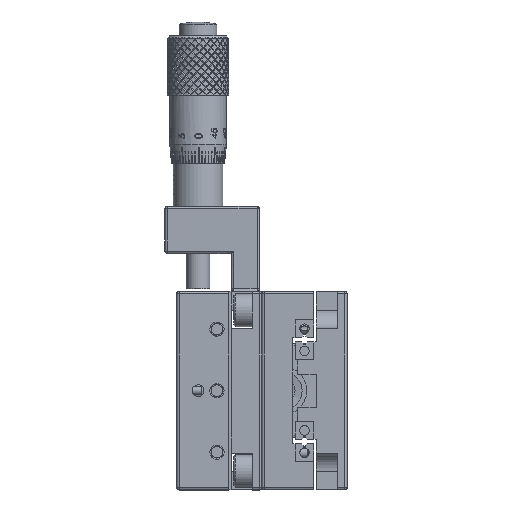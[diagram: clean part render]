
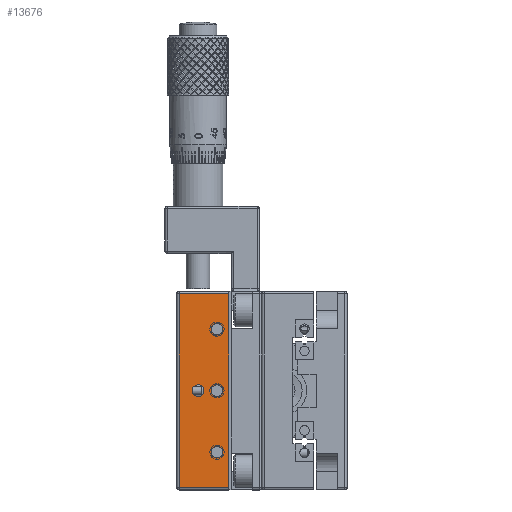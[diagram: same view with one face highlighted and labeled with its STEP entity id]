
A CAD part, left-side view. The second image highlights one B-rep face of the part: STEP entity #13676.
In plain terms, the highlighted planar face has unit normal (-1, 0, 0).
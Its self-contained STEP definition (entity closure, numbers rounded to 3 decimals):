
#4553 = EDGE_CURVE ( 'NONE', #295157, #295169, #49851, .T. ) ;
#4559 = EDGE_CURVE ( 'NONE', #295150, #295157, #49868, .T. ) ;
#4564 = EDGE_CURVE ( 'NONE', #295180, #295150, #49885, .T. ) ;
#4567 = EDGE_CURVE ( 'NONE', #194330, #194330, #49901, .T. ) ;
#4568 = EDGE_CURVE ( 'NONE', #194331, #194331, #49903, .T. ) ;
#4569 = EDGE_CURVE ( 'NONE', #194332, #194332, #49905, .T. ) ;
#4570 = EDGE_CURVE ( 'NONE', #194333, #194333, #49907, .T. ) ;
#4571 = EDGE_CURVE ( 'NONE', #295169, #295180, #49898, .T. ) ;
#13676 = ADVANCED_FACE ( 'NONE', ( #259621, #259626, #259617, #259608, #259624 ), #263256, .F. ) ;
#49851 = LINE ( 'NONE', #78946, #49857 ) ;
#49857 = VECTOR ( 'NONE', #78952, 1000. ) ;
#49868 = LINE ( 'NONE', #79010, #49875 ) ;
#49875 = VECTOR ( 'NONE', #78955, 1000. ) ;
#49885 = LINE ( 'NONE', #79060, #49892 ) ;
#49892 = VECTOR ( 'NONE', #79065, 1000. ) ;
#49898 = LINE ( 'NONE', #79100, #49911 ) ;
#49901 = CIRCLE ( 'NONE', #101562, 1.25 ) ;
#49903 = CIRCLE ( 'NONE', #101569, 1.25 ) ;
#49905 = CIRCLE ( 'NONE', #101573, 1.25 ) ;
#49907 = CIRCLE ( 'NONE', #101576, 1.25 ) ;
#49911 = VECTOR ( 'NONE', #79151, 1000. ) ;
#78946 = CARTESIAN_POINT ( 'NONE',  ( -68.825, 21.306, -14.75 ) ) ;
#78952 = DIRECTION ( 'NONE',  ( 0., -1., 0. ) ) ;
#78955 = DIRECTION ( 'NONE',  ( 0., 0., -1. ) ) ;
#79010 = CARTESIAN_POINT ( 'NONE',  ( -68.825, 20.806, -14.75 ) ) ;
#79060 = CARTESIAN_POINT ( 'NONE',  ( -68.825, 21.306, 26.25 ) ) ;
#79065 = DIRECTION ( 'NONE',  ( 0., 1., 0. ) ) ;
#79100 = CARTESIAN_POINT ( 'NONE',  ( -68.825, 10.306, -15.25 ) ) ;
#79103 = CARTESIAN_POINT ( 'NONE',  ( -68.825, 16.806, 5.75 ) ) ;
#79106 = DIRECTION ( 'NONE',  ( -1., 0., 0. ) ) ;
#79109 = DIRECTION ( 'NONE',  ( 0., 0., 1. ) ) ;
#79116 = CARTESIAN_POINT ( 'NONE',  ( -68.825, 12.806, 18.75 ) ) ;
#79119 = DIRECTION ( 'NONE',  ( 1., 0., 0. ) ) ;
#79122 = DIRECTION ( 'NONE',  ( 0., 0., -1. ) ) ;
#79129 = CARTESIAN_POINT ( 'NONE',  ( -68.825, 12.806, 5.75 ) ) ;
#79132 = DIRECTION ( 'NONE',  ( 1., 0., 0. ) ) ;
#79135 = DIRECTION ( 'NONE',  ( 0., 0., -1. ) ) ;
#79142 = CARTESIAN_POINT ( 'NONE',  ( -68.825, 12.806, -7.25 ) ) ;
#79145 = DIRECTION ( 'NONE',  ( 1., 0., 0. ) ) ;
#79148 = DIRECTION ( 'NONE',  ( 0., 0., -1. ) ) ;
#79151 = DIRECTION ( 'NONE',  ( 0., 0., 1. ) ) ;
#101562 = AXIS2_PLACEMENT_3D ( 'NONE', #79103, #79106, #79109 ) ;
#101569 = AXIS2_PLACEMENT_3D ( 'NONE', #79116, #79119, #79122 ) ;
#101573 = AXIS2_PLACEMENT_3D ( 'NONE', #79129, #79132, #79135 ) ;
#101576 = AXIS2_PLACEMENT_3D ( 'NONE', #79142, #79145, #79148 ) ;
#114771 = ORIENTED_EDGE ( 'NONE', *, *, #4567, .F. ) ;
#114774 = ORIENTED_EDGE ( 'NONE', *, *, #4568, .T. ) ;
#114777 = ORIENTED_EDGE ( 'NONE', *, *, #4569, .T. ) ;
#114782 = ORIENTED_EDGE ( 'NONE', *, *, #4570, .T. ) ;
#114786 = ORIENTED_EDGE ( 'NONE', *, *, #4564, .T. ) ;
#114788 = ORIENTED_EDGE ( 'NONE', *, *, #4559, .T. ) ;
#114790 = ORIENTED_EDGE ( 'NONE', *, *, #4553, .T. ) ;
#114792 = ORIENTED_EDGE ( 'NONE', *, *, #4571, .T. ) ;
#121072 = EDGE_LOOP ( 'NONE', ( #114774 ) ) ;
#121102 = EDGE_LOOP ( 'NONE', ( #114771 ) ) ;
#121112 = EDGE_LOOP ( 'NONE', ( #114777 ) ) ;
#121116 = EDGE_LOOP ( 'NONE', ( #114782 ) ) ;
#121120 = EDGE_LOOP ( 'NONE', ( #114786, #114788, #114790, #114792 ) ) ;
#194330 = VERTEX_POINT ( 'NONE', #283222 ) ;
#194331 = VERTEX_POINT ( 'NONE', #283223 ) ;
#194332 = VERTEX_POINT ( 'NONE', #283225 ) ;
#194333 = VERTEX_POINT ( 'NONE', #283227 ) ;
#247457 = AXIS2_PLACEMENT_3D ( 'NONE', #263260, #263254, #263265 ) ;
#259608 = FACE_BOUND ( 'NONE', #121116, .T. ) ;
#259617 = FACE_BOUND ( 'NONE', #121112, .T. ) ;
#259621 = FACE_BOUND ( 'NONE', #121102, .T. ) ;
#259624 = FACE_OUTER_BOUND ( 'NONE', #121120, .T. ) ;
#259626 = FACE_BOUND ( 'NONE', #121072, .T. ) ;
#263254 = DIRECTION ( 'NONE',  ( 1., 0., 0. ) ) ;
#263256 = PLANE ( 'NONE',  #247457 ) ;
#263260 = CARTESIAN_POINT ( 'NONE',  ( -68.825, 21.306, -15.25 ) ) ;
#263265 = DIRECTION ( 'NONE',  ( 0., 0., -1. ) ) ;
#282378 = CARTESIAN_POINT ( 'NONE',  ( -68.825, 20.806, 26.25 ) ) ;
#282381 = CARTESIAN_POINT ( 'NONE',  ( -68.825, 20.806, -14.75 ) ) ;
#282385 = CARTESIAN_POINT ( 'NONE',  ( -68.825, 10.306, -14.75 ) ) ;
#282389 = CARTESIAN_POINT ( 'NONE',  ( -68.825, 10.306, 26.25 ) ) ;
#283222 = CARTESIAN_POINT ( 'NONE',  ( -68.825, 16.806, 7. ) ) ;
#283223 = CARTESIAN_POINT ( 'NONE',  ( -68.825, 12.806, 17.5 ) ) ;
#283225 = CARTESIAN_POINT ( 'NONE',  ( -68.825, 12.806, 4.5 ) ) ;
#283227 = CARTESIAN_POINT ( 'NONE',  ( -68.825, 12.806, -8.5 ) ) ;
#295150 = VERTEX_POINT ( 'NONE', #282378 ) ;
#295157 = VERTEX_POINT ( 'NONE', #282381 ) ;
#295169 = VERTEX_POINT ( 'NONE', #282385 ) ;
#295180 = VERTEX_POINT ( 'NONE', #282389 ) ;
